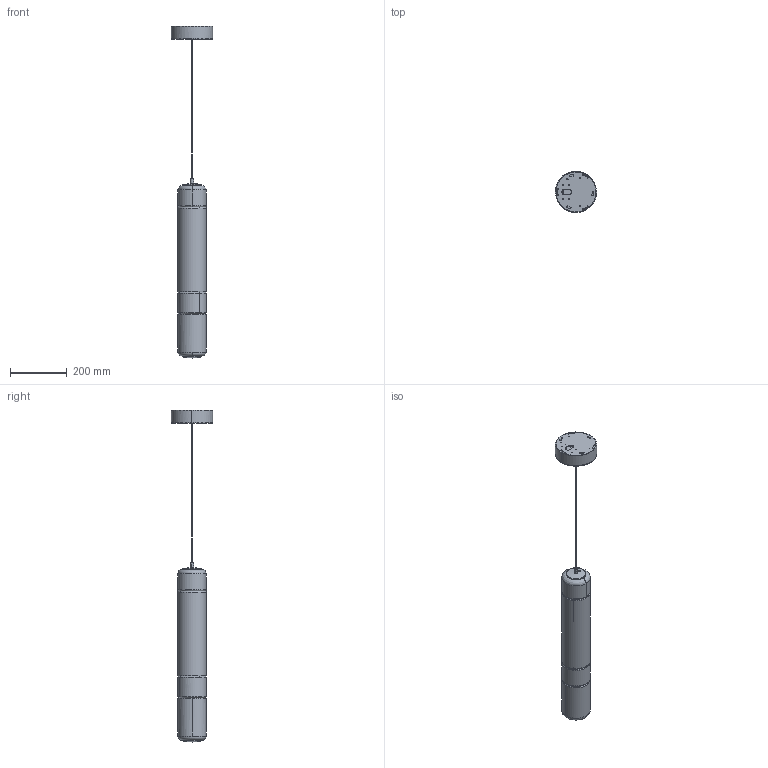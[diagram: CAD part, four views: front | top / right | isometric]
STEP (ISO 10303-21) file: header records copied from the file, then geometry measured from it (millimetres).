
FILE_DESCRIPTION(/* description */ (''),/* implementation_level */ '2;1');
FILE_NAME(/* name */ '00343MP2LD00PD - STACKING S 60',/* time_stamp */ '2023-05-04T11:15:24+02:00',/* author */ (''),/* organization */ (''),/* preprocessor_version */ 'ST-DEVELOPER v16.5',/* originating_system */ 'Rhino 7.27',/* authorisation */ '');
FILE_SCHEMA (('CONFIG_CONTROL_DESIGN'));
Length unit declared in the file: millimetre
Products named in the file (1): Document
Bounding box: 145 x 145 x 1167 mm (x, y, z)
Volume: 1021998.8 mm3; surface area: 790944.4 mm2
Topology: 17 solids, 17 shells, 721 faces, 1752 edges, 1136 vertices
Faces by surface type: plane 298, bspline 227, cylinder 196
Entity records: 27160 total; most frequent: CARTESIAN_POINT 15741, ORIENTED_EDGE 3492, EDGE_CURVE 1746, VERTEX_POINT 1136, EDGE_LOOP 846, B_SPLINE_CURVE_WITH_KNOTS 829, ADVANCED_FACE 721, FACE_OUTER_BOUND 721
